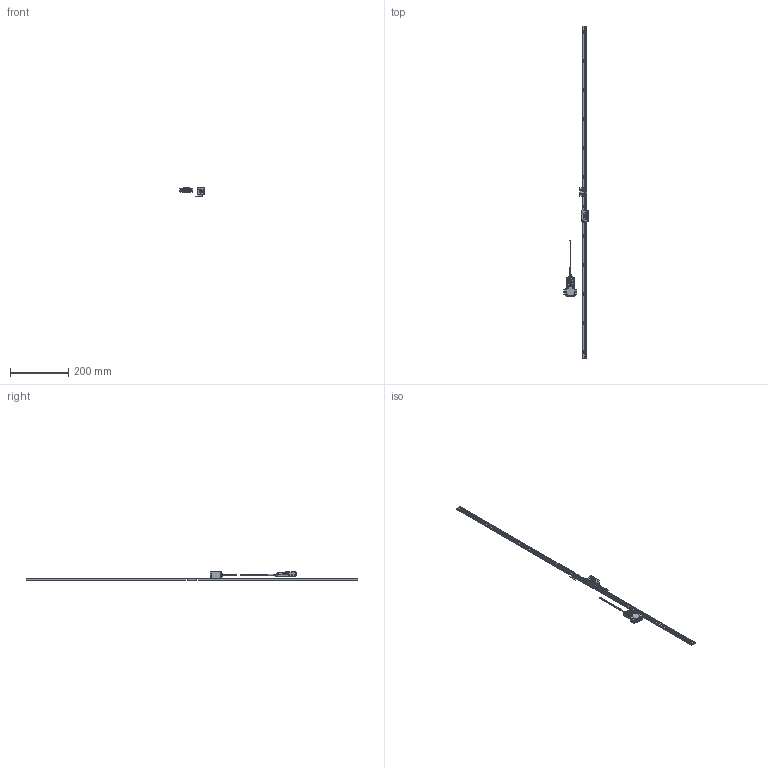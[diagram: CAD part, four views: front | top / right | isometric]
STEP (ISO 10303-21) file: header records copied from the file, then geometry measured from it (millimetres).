
FILE_DESCRIPTION(('Creo Elements/Direct Modeling STEP Export'),'2;1');
FILE_NAME('ST1300-1100F_G.stp','2022-08-16T10:26:14',(''),(''),'Creo Elements/Direct Modeling STEP processor for AP214 (Solid Model)','Creo Elements/Direct Modeling 18.1I 13-Aug-2016 (C) Parametric Technology GmbH','');
FILE_SCHEMA(('AUTOMOTIVE_DESIGN { 1 0 10303 214 1 1 1 1 }'));
Products named in the file (4): Connector; Scale_1100; Detector_Head; ST1300-1100F_G
Assembly tree (3 placements, depth 2):
  ST1300-1100F_G
    Detector_Head
    Scale_1100
    Connector
Bounding box: 83 x 1140 x 30.1 mm (x, y, z)
Volume: 113513.9 mm3; surface area: 70403.7 mm2
Topology: 2 solids, 6 shells, 3505 faces, 9652 edges, 6297 vertices
Faces by surface type: plane 1652, cylinder 1539, extrusion 174, cone 87, torus 26, bspline 23, revolution 4
Entity records: 116747 total; most frequent: CARTESIAN_POINT 26901, ORIENTED_EDGE 19288, DIRECTION 18121, EDGE_CURVE 9640, VERTEX_POINT 6297, AXIS2_PLACEMENT_3D 6111, VECTOR 5893, LINE 5751
